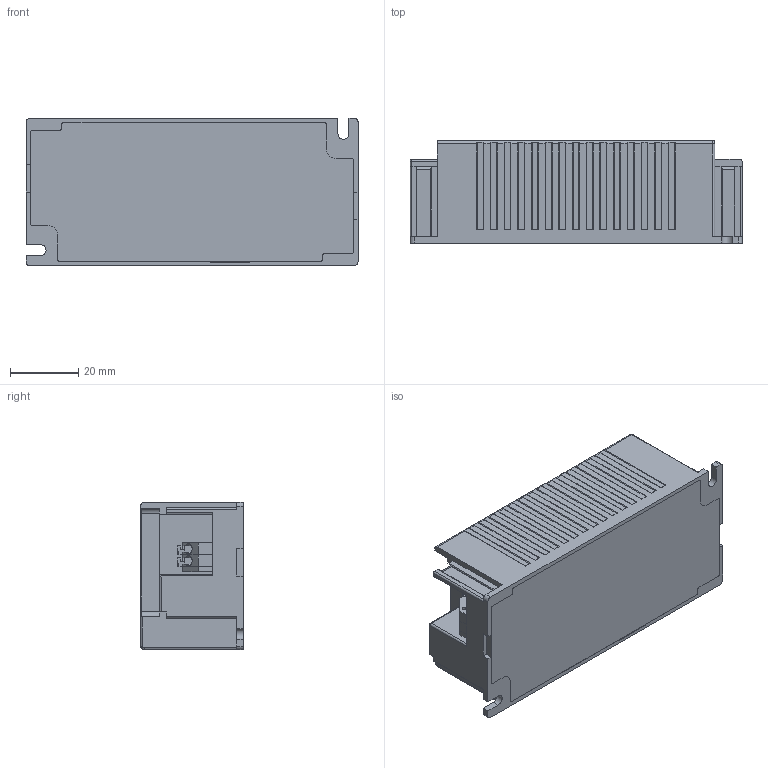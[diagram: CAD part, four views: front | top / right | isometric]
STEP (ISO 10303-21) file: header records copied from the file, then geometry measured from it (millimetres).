
FILE_DESCRIPTION((''),'2;1');
FILE_NAME('LC43MINI-300-1050_3D_FILE_ASM','2024-01-25T',('zhiming.li'),(''),'CREO PARAMETRIC BY PTC INC, 2018220','CREO PARAMETRIC BY PTC INC, 2018220','');
FILE_SCHEMA(('CONFIG_CONTROL_DESIGN'));
Length unit declared in the file: millimetre
Products named in the file (10): SHANGGAI_169_1; 40W-PCB_6_1; DA250_P1-21489_1_A_1_1_1; DA250_P4-19812_1_A_1_1_1; BOTTOM-1120_4_1; DA250_P2-14081_1_A_1_1_1; ZHUANGPEITU_ASM_61_ASM_1_ASM; BOMA-4_2; LC43MINI-300-1050_3D_FILE_ASM_1_ASM; LC43MINI-300-1050_3D_FILE_ASM
Assembly tree (11 placements, depth 4):
  LC43MINI-300-1050_3D_FILE_ASM
    LC43MINI-300-1050_3D_FILE_ASM_1_ASM
      ZHUANGPEITU_ASM_61_ASM_1_ASM
        SHANGGAI_169_1
        40W-PCB_6_1
        DA250_P1-21489_1_A_1_1_1  x3
        DA250_P4-19812_1_A_1_1_1
        BOTTOM-1120_4_1
        DA250_P2-14081_1_A_1_1_1
      BOMA-4_2
Bounding box: 97 x 30 x 43 mm (x, y, z)
Volume: 26420.9 mm3; surface area: 44972.2 mm2
Topology: 9 solids, 9 shells, 969 faces, 2823 edges, 1938 vertices
Faces by surface type: plane 637, cylinder 270, extrusion 50, torus 6, cone 2, sphere 2, bspline 2
Entity records: 34245 total; most frequent: CARTESIAN_POINT 7535, ORIENTED_EDGE 4622, DIRECTION 4235, EDGE_CURVE 2311, VECTOR 1683, PRESENTATION_STYLE_ASSIGNMENT 1679, STYLED_ITEM 1679, CURVE_STYLE 1676
